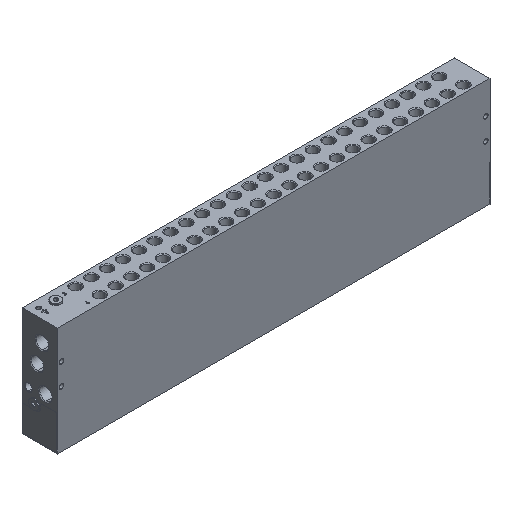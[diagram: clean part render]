
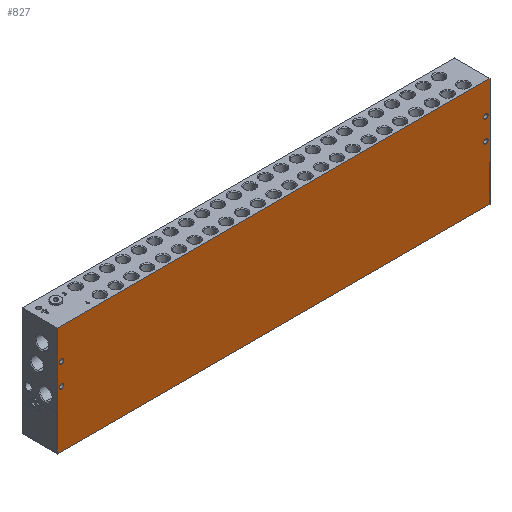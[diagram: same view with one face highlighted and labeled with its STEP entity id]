
A CAD part, isometric view. The second image highlights one B-rep face of the part: STEP entity #827.
In plain terms, the highlighted planar face has unit normal (0, -1, 0).
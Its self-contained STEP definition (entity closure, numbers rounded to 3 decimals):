
#53 = CARTESIAN_POINT ( 'NONE',  ( 5., 0., -34.25 ) ) ;
#206 = AXIS2_PLACEMENT_3D ( 'NONE', #776, #2501, #17121 ) ;
#776 = CARTESIAN_POINT ( 'NONE',  ( 5., 0., -37. ) ) ;
#812 = EDGE_CURVE ( 'NONE', #13849, #4614, #4083, .T. ) ;
#827 = ADVANCED_FACE ( 'NONE', ( #8544, #2737, #12993, #993, #18995 ), #3997, .F. ) ;
#951 = EDGE_CURVE ( 'NONE', #5116, #12857, #1206, .T. ) ;
#993 = FACE_BOUND ( 'NONE', #3699, .T. ) ;
#1206 = CIRCLE ( 'NONE', #13273, 2.75 ) ;
#1363 = CARTESIAN_POINT ( 'NONE',  ( 515., 0., -37. ) ) ;
#1829 = EDGE_CURVE ( 'NONE', #16553, #15358, #12060, .T. ) ;
#2055 = ORIENTED_EDGE ( 'NONE', *, *, #812, .F. ) ;
#2129 = ORIENTED_EDGE ( 'NONE', *, *, #16036, .F. ) ;
#2501 = DIRECTION ( 'NONE',  ( 0., 1., 0. ) ) ;
#2547 = DIRECTION ( 'NONE',  ( 0., 1., 0. ) ) ;
#2652 = ORIENTED_EDGE ( 'NONE', *, *, #16513, .T. ) ;
#2737 = FACE_BOUND ( 'NONE', #4504, .T. ) ;
#2823 = CARTESIAN_POINT ( 'NONE',  ( 520., 0., 0. ) ) ;
#2832 = DIRECTION ( 'NONE',  ( 1., 0., 0. ) ) ;
#2896 = CIRCLE ( 'NONE', #16821, 2.75 ) ;
#3049 = CARTESIAN_POINT ( 'NONE',  ( 515., 0., -60.25 ) ) ;
#3152 = CARTESIAN_POINT ( 'NONE',  ( 0., 0., -131. ) ) ;
#3214 = EDGE_CURVE ( 'NONE', #6600, #10242, #7835, .T. ) ;
#3331 = DIRECTION ( 'NONE',  ( 1., 0., 0. ) ) ;
#3512 = CARTESIAN_POINT ( 'NONE',  ( 515., 0., -63. ) ) ;
#3611 = CARTESIAN_POINT ( 'NONE',  ( 5., 0., -63. ) ) ;
#3699 = EDGE_LOOP ( 'NONE', ( #6059, #5535 ) ) ;
#3962 = CARTESIAN_POINT ( 'NONE',  ( 515., 0., -34.25 ) ) ;
#3985 = VECTOR ( 'NONE', #15891, 1000. ) ;
#3997 = PLANE ( 'NONE',  #9247 ) ;
#4083 = LINE ( 'NONE', #6995, #3985 ) ;
#4245 = CIRCLE ( 'NONE', #10751, 2.75 ) ;
#4504 = EDGE_LOOP ( 'NONE', ( #6346, #18686 ) ) ;
#4555 = EDGE_LOOP ( 'NONE', ( #5004, #6061 ) ) ;
#4614 = VERTEX_POINT ( 'NONE', #2823 ) ;
#5004 = ORIENTED_EDGE ( 'NONE', *, *, #17559, .T. ) ;
#5116 = VERTEX_POINT ( 'NONE', #7443 ) ;
#5382 = DIRECTION ( 'NONE',  ( 0., 0., -1. ) ) ;
#5454 = DIRECTION ( 'NONE',  ( 0., 1., 0. ) ) ;
#5477 = LINE ( 'NONE', #13012, #10315 ) ;
#5535 = ORIENTED_EDGE ( 'NONE', *, *, #951, .T. ) ;
#5644 = DIRECTION ( 'NONE',  ( 1., 0., 0. ) ) ;
#6059 = ORIENTED_EDGE ( 'NONE', *, *, #17729, .T. ) ;
#6061 = ORIENTED_EDGE ( 'NONE', *, *, #1829, .T. ) ;
#6112 = VECTOR ( 'NONE', #16408, 1000. ) ;
#6346 = ORIENTED_EDGE ( 'NONE', *, *, #12219, .T. ) ;
#6501 = CARTESIAN_POINT ( 'NONE',  ( 0., 0., 0. ) ) ;
#6600 = VERTEX_POINT ( 'NONE', #6821 ) ;
#6821 = CARTESIAN_POINT ( 'NONE',  ( 5., 0., -39.75 ) ) ;
#6995 = CARTESIAN_POINT ( 'NONE',  ( 0., 0., 0. ) ) ;
#7443 = CARTESIAN_POINT ( 'NONE',  ( 5., 0., -60.25 ) ) ;
#7569 = VERTEX_POINT ( 'NONE', #3049 ) ;
#7835 = CIRCLE ( 'NONE', #16474, 2.75 ) ;
#8065 = DIRECTION ( 'NONE',  ( 0., 1., 0. ) ) ;
#8458 = DIRECTION ( 'NONE',  ( 1., 0., 0. ) ) ;
#8544 = FACE_BOUND ( 'NONE', #4555, .T. ) ;
#8750 = VERTEX_POINT ( 'NONE', #17153 ) ;
#9010 = DIRECTION ( 'NONE',  ( 0., 1., 0. ) ) ;
#9019 = DIRECTION ( 'NONE',  ( 0., 1., 0. ) ) ;
#9025 = CARTESIAN_POINT ( 'NONE',  ( 520., 0., -131. ) ) ;
#9037 = CARTESIAN_POINT ( 'NONE',  ( 5., 0., -37. ) ) ;
#9153 = CIRCLE ( 'NONE', #206, 2.75 ) ;
#9247 = AXIS2_PLACEMENT_3D ( 'NONE', #18896, #5454, #5644 ) ;
#9427 = DIRECTION ( 'NONE',  ( 1., 0., 0. ) ) ;
#9750 = VECTOR ( 'NONE', #14082, 1000. ) ;
#9876 = EDGE_LOOP ( 'NONE', ( #12278, #2652 ) ) ;
#10130 = AXIS2_PLACEMENT_3D ( 'NONE', #15803, #2547, #8458 ) ;
#10188 = EDGE_CURVE ( 'NONE', #4614, #18691, #5477, .T. ) ;
#10229 = CARTESIAN_POINT ( 'NONE',  ( 515., 0., -65.75 ) ) ;
#10242 = VERTEX_POINT ( 'NONE', #53 ) ;
#10315 = VECTOR ( 'NONE', #5382, 1000. ) ;
#10482 = DIRECTION ( 'NONE',  ( 1., 0., 0. ) ) ;
#10518 = LINE ( 'NONE', #3152, #6112 ) ;
#10751 = AXIS2_PLACEMENT_3D ( 'NONE', #3611, #8065, #18517 ) ;
#10966 = ORIENTED_EDGE ( 'NONE', *, *, #10188, .F. ) ;
#11517 = VERTEX_POINT ( 'NONE', #10229 ) ;
#11833 = CARTESIAN_POINT ( 'NONE',  ( 515., 0., -63. ) ) ;
#12060 = CIRCLE ( 'NONE', #13606, 2.75 ) ;
#12219 = EDGE_CURVE ( 'NONE', #11517, #7569, #13175, .T. ) ;
#12264 = AXIS2_PLACEMENT_3D ( 'NONE', #3512, #12339, #9427 ) ;
#12278 = ORIENTED_EDGE ( 'NONE', *, *, #3214, .T. ) ;
#12339 = DIRECTION ( 'NONE',  ( 0., 1., 0. ) ) ;
#12637 = CARTESIAN_POINT ( 'NONE',  ( 520., 0., -131. ) ) ;
#12650 = EDGE_LOOP ( 'NONE', ( #2129, #10966, #2055, #15210 ) ) ;
#12857 = VERTEX_POINT ( 'NONE', #14882 ) ;
#12961 = CARTESIAN_POINT ( 'NONE',  ( 515., 0., -39.75 ) ) ;
#12993 = FACE_BOUND ( 'NONE', #9876, .T. ) ;
#13012 = CARTESIAN_POINT ( 'NONE',  ( 520., 0., 0. ) ) ;
#13175 = CIRCLE ( 'NONE', #12264, 2.75 ) ;
#13182 = DIRECTION ( 'NONE',  ( 1., 0., 0. ) ) ;
#13273 = AXIS2_PLACEMENT_3D ( 'NONE', #16571, #9019, #10482 ) ;
#13606 = AXIS2_PLACEMENT_3D ( 'NONE', #1363, #9010, #13182 ) ;
#13849 = VERTEX_POINT ( 'NONE', #6501 ) ;
#14082 = DIRECTION ( 'NONE',  ( -1., 0., 0. ) ) ;
#14449 = CIRCLE ( 'NONE', #10130, 2.75 ) ;
#14882 = CARTESIAN_POINT ( 'NONE',  ( 5., 0., -65.75 ) ) ;
#14886 = EDGE_CURVE ( 'NONE', #7569, #11517, #2896, .T. ) ;
#15210 = ORIENTED_EDGE ( 'NONE', *, *, #18485, .F. ) ;
#15358 = VERTEX_POINT ( 'NONE', #12961 ) ;
#15803 = CARTESIAN_POINT ( 'NONE',  ( 515., 0., -37. ) ) ;
#15891 = DIRECTION ( 'NONE',  ( 1., 0., 0. ) ) ;
#16036 = EDGE_CURVE ( 'NONE', #18691, #8750, #16705, .T. ) ;
#16094 = DIRECTION ( 'NONE',  ( 0., 1., 0. ) ) ;
#16408 = DIRECTION ( 'NONE',  ( 0., 0., 1. ) ) ;
#16474 = AXIS2_PLACEMENT_3D ( 'NONE', #9037, #17841, #3331 ) ;
#16513 = EDGE_CURVE ( 'NONE', #10242, #6600, #9153, .T. ) ;
#16553 = VERTEX_POINT ( 'NONE', #3962 ) ;
#16571 = CARTESIAN_POINT ( 'NONE',  ( 5., 0., -63. ) ) ;
#16705 = LINE ( 'NONE', #12637, #9750 ) ;
#16821 = AXIS2_PLACEMENT_3D ( 'NONE', #11833, #16094, #2832 ) ;
#17121 = DIRECTION ( 'NONE',  ( 1., 0., 0. ) ) ;
#17153 = CARTESIAN_POINT ( 'NONE',  ( 0., 0., -131. ) ) ;
#17559 = EDGE_CURVE ( 'NONE', #15358, #16553, #14449, .T. ) ;
#17729 = EDGE_CURVE ( 'NONE', #12857, #5116, #4245, .T. ) ;
#17841 = DIRECTION ( 'NONE',  ( 0., 1., 0. ) ) ;
#18485 = EDGE_CURVE ( 'NONE', #8750, #13849, #10518, .T. ) ;
#18517 = DIRECTION ( 'NONE',  ( 1., 0., 0. ) ) ;
#18686 = ORIENTED_EDGE ( 'NONE', *, *, #14886, .T. ) ;
#18691 = VERTEX_POINT ( 'NONE', #9025 ) ;
#18896 = CARTESIAN_POINT ( 'NONE',  ( 0., 0., 0. ) ) ;
#18995 = FACE_OUTER_BOUND ( 'NONE', #12650, .T. ) ;
